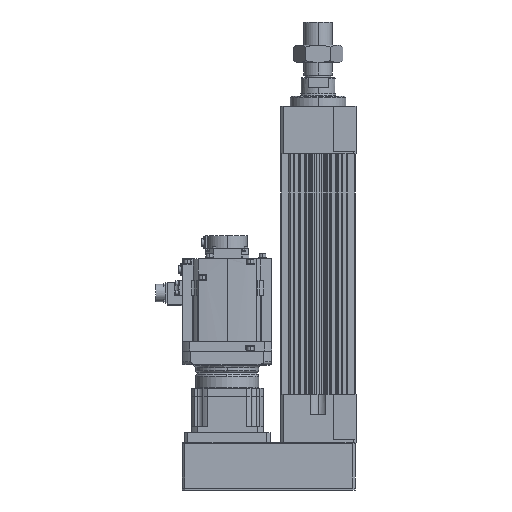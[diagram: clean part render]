
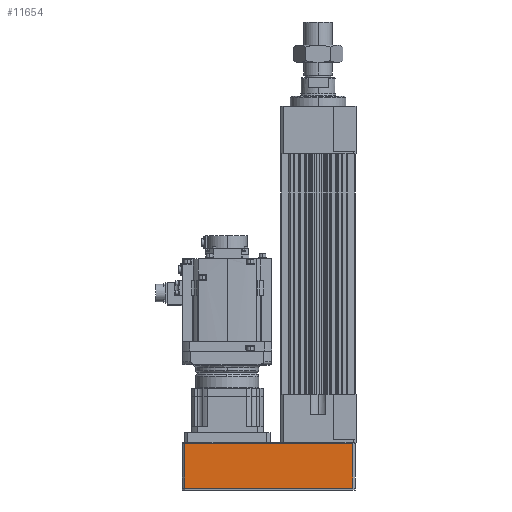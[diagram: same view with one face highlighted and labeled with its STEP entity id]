
A CAD part, left-side view. The second image highlights one B-rep face of the part: STEP entity #11654.
In plain terms, the highlighted planar face has unit normal (-1, 0, 0).
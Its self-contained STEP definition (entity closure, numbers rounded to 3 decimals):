
#369 = FACE_OUTER_BOUND ( 'NONE', #24723, .T. ) ;
#9318 = EDGE_CURVE ( 'NONE', #53984, #41368, #47417, .T. ) ;
#11338 = CARTESIAN_POINT ( 'NONE',  ( -73.5, 73.5, 90. ) ) ;
#11654 = ADVANCED_FACE ( 'NONE', ( #369 ), #15474, .F. ) ;
#12384 = DIRECTION ( 'NONE',  ( 0., 0., 1. ) ) ;
#13028 = EDGE_CURVE ( 'NONE', #46395, #55115, #37086, .T. ) ;
#14693 = VECTOR ( 'NONE', #12384, 1000. ) ;
#15474 = PLANE ( 'NONE',  #41356 ) ;
#18272 = CARTESIAN_POINT ( 'NONE',  ( -73.5, -264., 89.5 ) ) ;
#20455 = CARTESIAN_POINT ( 'NONE',  ( -73.5, -264., 90. ) ) ;
#21219 = CARTESIAN_POINT ( 'NONE',  ( -73.5, 68.5, 89.5 ) ) ;
#24723 = EDGE_LOOP ( 'NONE', ( #49646, #34238, #28450, #38031 ) ) ;
#25593 = EDGE_CURVE ( 'NONE', #55115, #53984, #29620, .T. ) ;
#27159 = CARTESIAN_POINT ( 'NONE',  ( -73.5, -264., 0.5 ) ) ;
#28450 = ORIENTED_EDGE ( 'NONE', *, *, #9318, .T. ) ;
#29620 = LINE ( 'NONE', #31436, #32906 ) ;
#31436 = CARTESIAN_POINT ( 'NONE',  ( -73.5, 73.5, 0.5 ) ) ;
#31612 = DIRECTION ( 'NONE',  ( 0., -1., 0. ) ) ;
#32632 = DIRECTION ( 'NONE',  ( 0., 1., 0. ) ) ;
#32906 = VECTOR ( 'NONE', #31612, 1000. ) ;
#34238 = ORIENTED_EDGE ( 'NONE', *, *, #25593, .T. ) ;
#35264 = VECTOR ( 'NONE', #32632, 1000. ) ;
#36378 = VECTOR ( 'NONE', #40990, 1000. ) ;
#37086 = LINE ( 'NONE', #49569, #36378 ) ;
#38031 = ORIENTED_EDGE ( 'NONE', *, *, #45388, .T. ) ;
#40822 = CARTESIAN_POINT ( 'NONE',  ( -73.5, 68.5, 89.5 ) ) ;
#40990 = DIRECTION ( 'NONE',  ( 0., 0., -1. ) ) ;
#41356 = AXIS2_PLACEMENT_3D ( 'NONE', #11338, #45696, #45513 ) ;
#41368 = VERTEX_POINT ( 'NONE', #18272 ) ;
#45388 = EDGE_CURVE ( 'NONE', #41368, #46395, #51904, .T. ) ;
#45513 = DIRECTION ( 'NONE',  ( 0., 1., 0. ) ) ;
#45696 = DIRECTION ( 'NONE',  ( 1., 0., 0. ) ) ;
#46395 = VERTEX_POINT ( 'NONE', #21219 ) ;
#47417 = LINE ( 'NONE', #20455, #14693 ) ;
#49569 = CARTESIAN_POINT ( 'NONE',  ( -73.5, 68.5, 90. ) ) ;
#49646 = ORIENTED_EDGE ( 'NONE', *, *, #13028, .T. ) ;
#51904 = LINE ( 'NONE', #40822, #35264 ) ;
#52902 = CARTESIAN_POINT ( 'NONE',  ( -73.5, 68.5, 0.5 ) ) ;
#53984 = VERTEX_POINT ( 'NONE', #27159 ) ;
#55115 = VERTEX_POINT ( 'NONE', #52902 ) ;
